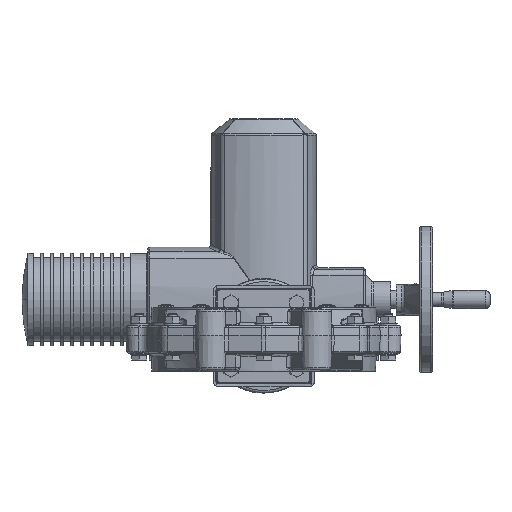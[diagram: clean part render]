
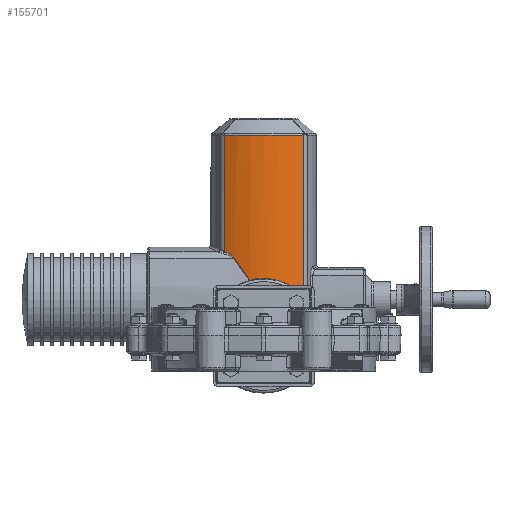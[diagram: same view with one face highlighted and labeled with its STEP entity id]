
A CAD part, front view. The second image highlights one B-rep face of the part: STEP entity #155701.
In plain terms, the highlighted cylindrical face has radius 100 mm (diameter 200 mm), a partial arc.
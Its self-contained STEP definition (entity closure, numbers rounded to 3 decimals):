
#1139 = CARTESIAN_POINT ( 'NONE',  ( 0., 686., 220.035 ) ) ;
#4393 = CARTESIAN_POINT ( 'NONE',  ( 42.296, 595.381, 44.907 ) ) ;
#4420 = CARTESIAN_POINT ( 'NONE',  ( -14.967, 587.126, 60.881 ) ) ;
#5418 = CARTESIAN_POINT ( 'NONE',  ( -33.565, 591.8, 86.957 ) ) ;
#5698 = VERTEX_POINT ( 'NONE', #105946 ) ;
#8105 = CARTESIAN_POINT ( 'NONE',  ( -5.794, 586.161, 62.927 ) ) ;
#10778 = EDGE_CURVE ( 'NONE', #163982, #117845, #24809, .T. ) ;
#10852 = CARTESIAN_POINT ( 'NONE',  ( 23.143, 588.713, 57.404 ) ) ;
#13073 = EDGE_CURVE ( 'NONE', #5698, #100168, #38611, .T. ) ;
#13407 = CARTESIAN_POINT ( 'NONE',  ( 43.041, 595.737, 220.035 ) ) ;
#13970 = DIRECTION ( 'NONE',  ( 1., 0., 0. ) ) ;
#15317 = CIRCLE ( 'NONE', #40323, 100. ) ;
#16623 = CARTESIAN_POINT ( 'NONE',  ( -43.041, 595.737, 92.391 ) ) ;
#16690 = CARTESIAN_POINT ( 'NONE',  ( 38.764, 593.818, 46.82 ) ) ;
#16876 = EDGE_CURVE ( 'NONE', #107418, #5698, #66280, .T. ) ;
#17743 = CARTESIAN_POINT ( 'NONE',  ( -42.042, 595.26, 92.005 ) ) ;
#17813 = DIRECTION ( 'NONE',  ( 0., 0., -1. ) ) ;
#18287 = CARTESIAN_POINT ( 'NONE',  ( -32.398, 591.393, 85.723 ) ) ;
#19893 = B_SPLINE_CURVE_WITH_KNOTS ( 'NONE', 3,
 ( #144544, #68114, #80956, #4420 ),
 .UNSPECIFIED., .F., .F.,
 ( 4, 4 ),
 ( 0., 0.03 ),
 .UNSPECIFIED. ) ;
#20945 = CARTESIAN_POINT ( 'NONE',  ( -2.243, 586.018, 63.226 ) ) ;
#22310 = B_SPLINE_CURVE_WITH_KNOTS ( 'NONE', 3,
 ( #137773, #61358, #150661, #74159 ),
 .UNSPECIFIED., .F., .F.,
 ( 4, 4 ),
 ( 0.008, 0.009 ),
 .UNSPECIFIED. ) ;
#22321 = VERTEX_POINT ( 'NONE', #98429 ) ;
#23750 = CARTESIAN_POINT ( 'NONE',  ( 24.662, 589.087, 56.561 ) ) ;
#24809 = B_SPLINE_CURVE_WITH_KNOTS ( 'NONE', 3,
 ( #144515, #106040, #16690, #68086, #157377, #80920, #4393, #93770 ),
 .UNSPECIFIED., .F., .F.,
 ( 4, 2, 2, 4 ),
 ( 0., 0.002, 0.003, 0.007 ),
 .UNSPECIFIED. ) ;
#36096 = CARTESIAN_POINT ( 'NONE',  ( 3.673, 586.04, 63.181 ) ) ;
#36641 = CARTESIAN_POINT ( 'NONE',  ( 27.641, 589.874, 54.766 ) ) ;
#38539 = EDGE_CURVE ( 'NONE', #22321, #42041, #84436, .T. ) ;
#38611 = B_SPLINE_CURVE_WITH_KNOTS ( 'NONE', 3,
 ( #16623, #17743, #132729, #56381, #145575, #69121, #158384, #81966, #5418, #94791, #18287, #107629 ),
 .UNSPECIFIED., .F., .F.,
 ( 4, 2, 2, 2, 2, 4 ),
 ( 0., 0.003, 0.007, 0.01, 0.012, 0.014 ),
 .UNSPECIFIED. ) ;
#40323 = AXIS2_PLACEMENT_3D ( 'NONE', #1139, #90501, #13970 ) ;
#40872 = EDGE_LOOP ( 'NONE', ( #71819, #121937, #86431, #145579, #132637, #126513, #90949, #142303 ) ) ;
#41733 = DIRECTION ( 'NONE',  ( -1., 0., 0. ) ) ;
#42041 = VERTEX_POINT ( 'NONE', #91737 ) ;
#48975 = CARTESIAN_POINT ( 'NONE',  ( 8.354, 586.343, 62.546 ) ) ;
#49548 = CARTESIAN_POINT ( 'NONE',  ( 33.093, 591.616, 50.604 ) ) ;
#52351 = EDGE_CURVE ( 'NONE', #165253, #117845, #163694, .T. ) ;
#54354 = VECTOR ( 'NONE', #55684, 1000. ) ;
#55684 = DIRECTION ( 'NONE',  ( 0., 0., -1. ) ) ;
#56381 = CARTESIAN_POINT ( 'NONE',  ( -39.094, 593.952, 90.65 ) ) ;
#57224 = EDGE_CURVE ( 'NONE', #165253, #107418, #15317, .T. ) ;
#61358 = CARTESIAN_POINT ( 'NONE',  ( 36.862, 593.041, 47.327 ) ) ;
#61780 = CARTESIAN_POINT ( 'NONE',  ( 11.825, 586.695, 61.802 ) ) ;
#62346 = CARTESIAN_POINT ( 'NONE',  ( 36.396, 592.858, 47.439 ) ) ;
#66176 = AXIS2_PLACEMENT_3D ( 'NONE', #130487, #143293, #41733 ) ;
#66280 = LINE ( 'NONE', #122625, #54354 ) ;
#67714 = CARTESIAN_POINT ( 'NONE',  ( -43.041, 595.737, 220.035 ) ) ;
#68086 = CARTESIAN_POINT ( 'NONE',  ( 39.706, 594.219, 46.448 ) ) ;
#68114 = CARTESIAN_POINT ( 'NONE',  ( -26.44, 589.376, 77.158 ) ) ;
#69121 = CARTESIAN_POINT ( 'NONE',  ( -36.228, 592.787, 89.011 ) ) ;
#71819 = ORIENTED_EDGE ( 'NONE', *, *, #16876, .T. ) ;
#74159 = CARTESIAN_POINT ( 'NONE',  ( 37.791, 593.416, 47.097 ) ) ;
#74615 = CARTESIAN_POINT ( 'NONE',  ( 17.386, 587.499, 60.082 ) ) ;
#80920 = CARTESIAN_POINT ( 'NONE',  ( 41.482, 595.005, 45.502 ) ) ;
#80956 = CARTESIAN_POINT ( 'NONE',  ( -20.733, 587.999, 69.042 ) ) ;
#81966 = CARTESIAN_POINT ( 'NONE',  ( -33.985, 591.951, 87.329 ) ) ;
#84436 = B_SPLINE_CURVE_WITH_KNOTS ( 'NONE', 3,
 ( #109755, #122052, #161062, #84654, #8105, #97494, #20945, #110317, #36096, #125371, #48975, #138228, #61780, #151097, #74615, #163881, #87445, #10852, #100317, #23750, #113113, #36641, #125918, #49548, #138758, #62346 ),
 .UNSPECIFIED., .F., .F.,
 ( 4, 2, 2, 2, 2, 2, 2, 2, 2, 2, 2, 2, 4 ),
 ( 0., 0.007, 0.011, 0.014, 0.021, 0.025, 0.028, 0.035, 0.039, 0.041, 0.042, 0.05, 0.057 ),
 .UNSPECIFIED. ) ;
#84654 = CARTESIAN_POINT ( 'NONE',  ( -6.964, 586.236, 62.77 ) ) ;
#86431 = ORIENTED_EDGE ( 'NONE', *, *, #137274, .T. ) ;
#87063 = CYLINDRICAL_SURFACE ( 'NONE', #66176, 100. ) ;
#87445 = CARTESIAN_POINT ( 'NONE',  ( 21.604, 588.356, 58.202 ) ) ;
#90501 = DIRECTION ( 'NONE',  ( 0., 0., -1. ) ) ;
#90949 = ORIENTED_EDGE ( 'NONE', *, *, #52351, .F. ) ;
#91737 = CARTESIAN_POINT ( 'NONE',  ( 36.396, 592.858, 47.439 ) ) ;
#93770 = CARTESIAN_POINT ( 'NONE',  ( 43.041, 595.737, 44.194 ) ) ;
#94791 = CARTESIAN_POINT ( 'NONE',  ( -32.772, 591.521, 86.153 ) ) ;
#97494 = CARTESIAN_POINT ( 'NONE',  ( -3.436, 586.052, 63.155 ) ) ;
#98429 = CARTESIAN_POINT ( 'NONE',  ( -14.967, 587.126, 60.881 ) ) ;
#100168 = VERTEX_POINT ( 'NONE', #157121 ) ;
#100317 = CARTESIAN_POINT ( 'NONE',  ( 23.652, 588.836, 57.129 ) ) ;
#105946 = CARTESIAN_POINT ( 'NONE',  ( -43.041, 595.737, 92.391 ) ) ;
#106040 = CARTESIAN_POINT ( 'NONE',  ( 38.283, 593.617, 46.974 ) ) ;
#107418 = VERTEX_POINT ( 'NONE', #67714 ) ;
#107629 = CARTESIAN_POINT ( 'NONE',  ( -32.064, 591.28, 85.242 ) ) ;
#109755 = CARTESIAN_POINT ( 'NONE',  ( -14.967, 587.126, 60.881 ) ) ;
#110317 = CARTESIAN_POINT ( 'NONE',  ( 1.316, 585.981, 63.304 ) ) ;
#113113 = CARTESIAN_POINT ( 'NONE',  ( 25.164, 589.217, 56.268 ) ) ;
#117845 = VERTEX_POINT ( 'NONE', #164556 ) ;
#121937 = ORIENTED_EDGE ( 'NONE', *, *, #13073, .T. ) ;
#122052 = CARTESIAN_POINT ( 'NONE',  ( -12.724, 586.787, 61.609 ) ) ;
#122625 = CARTESIAN_POINT ( 'NONE',  ( -43.041, 595.737, 237.75 ) ) ;
#125371 = CARTESIAN_POINT ( 'NONE',  ( 7.186, 586.252, 62.737 ) ) ;
#125740 = VECTOR ( 'NONE', #17813, 1000. ) ;
#125918 = CARTESIAN_POINT ( 'NONE',  ( 29.519, 590.438, 53.45 ) ) ;
#126513 = ORIENTED_EDGE ( 'NONE', *, *, #10778, .T. ) ;
#130487 = CARTESIAN_POINT ( 'NONE',  ( 0., 686., 237.75 ) ) ;
#132637 = ORIENTED_EDGE ( 'NONE', *, *, #163207, .T. ) ;
#132729 = CARTESIAN_POINT ( 'NONE',  ( -41.052, 594.808, 91.582 ) ) ;
#133048 = FACE_OUTER_BOUND ( 'NONE', #40872, .T. ) ;
#137274 = EDGE_CURVE ( 'NONE', #100168, #22321, #19893, .T. ) ;
#137773 = CARTESIAN_POINT ( 'NONE',  ( 36.396, 592.858, 47.439 ) ) ;
#138228 = CARTESIAN_POINT ( 'NONE',  ( 10.68, 586.565, 62.077 ) ) ;
#138758 = CARTESIAN_POINT ( 'NONE',  ( 34.788, 592.23, 49.074 ) ) ;
#142303 = ORIENTED_EDGE ( 'NONE', *, *, #57224, .T. ) ;
#143293 = DIRECTION ( 'NONE',  ( 0., 0., -1. ) ) ;
#144515 = CARTESIAN_POINT ( 'NONE',  ( 37.791, 593.416, 47.097 ) ) ;
#144544 = CARTESIAN_POINT ( 'NONE',  ( -32.064, 591.28, 85.242 ) ) ;
#145575 = CARTESIAN_POINT ( 'NONE',  ( -38.126, 593.548, 90.142 ) ) ;
#145579 = ORIENTED_EDGE ( 'NONE', *, *, #38539, .T. ) ;
#146250 = CARTESIAN_POINT ( 'NONE',  ( 37.791, 593.416, 47.097 ) ) ;
#150661 = CARTESIAN_POINT ( 'NONE',  ( 37.328, 593.227, 47.213 ) ) ;
#151097 = CARTESIAN_POINT ( 'NONE',  ( 15.204, 587.137, 60.862 ) ) ;
#155701 = ADVANCED_FACE ( 'NONE', ( #133048 ), #87063, .T. ) ;
#157121 = CARTESIAN_POINT ( 'NONE',  ( -32.064, 591.28, 85.242 ) ) ;
#157377 = CARTESIAN_POINT ( 'NONE',  ( 40.164, 594.419, 46.232 ) ) ;
#157917 = CARTESIAN_POINT ( 'NONE',  ( 43.041, 595.737, 237.75 ) ) ;
#158384 = CARTESIAN_POINT ( 'NONE',  ( -35.292, 592.43, 88.385 ) ) ;
#161062 = CARTESIAN_POINT ( 'NONE',  ( -10.443, 586.52, 62.174 ) ) ;
#163207 = EDGE_CURVE ( 'NONE', #42041, #163982, #22310, .T. ) ;
#163694 = LINE ( 'NONE', #157917, #125740 ) ;
#163881 = CARTESIAN_POINT ( 'NONE',  ( 20.562, 588.131, 58.699 ) ) ;
#163982 = VERTEX_POINT ( 'NONE', #146250 ) ;
#164556 = CARTESIAN_POINT ( 'NONE',  ( 43.041, 595.737, 44.194 ) ) ;
#165253 = VERTEX_POINT ( 'NONE', #13407 ) ;
